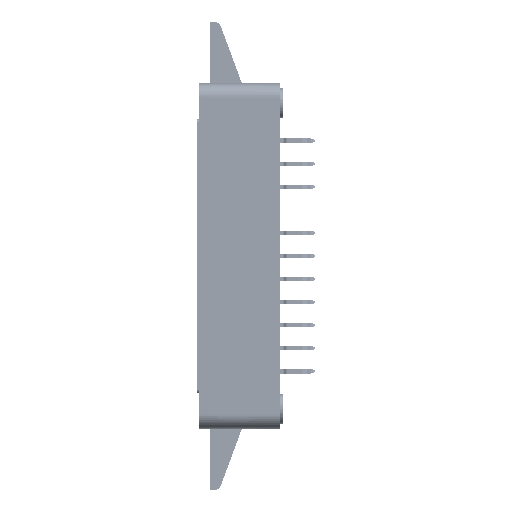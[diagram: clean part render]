
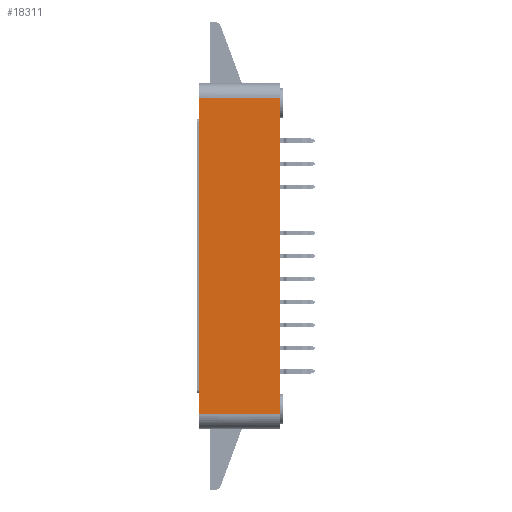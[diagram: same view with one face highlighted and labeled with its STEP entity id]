
A CAD part, front view. The second image highlights one B-rep face of the part: STEP entity #18311.
In plain terms, the highlighted planar face has unit normal (0, -1, 0).
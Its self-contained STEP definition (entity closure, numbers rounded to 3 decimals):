
#1434 = CARTESIAN_POINT ( 'NONE',  ( 0., -26.1, -22. ) ) ;
#2032 = DIRECTION ( 'NONE',  ( -1., 0., 0. ) ) ;
#2460 = LINE ( 'NONE', #28888, #63570 ) ;
#2685 = LINE ( 'NONE', #48256, #83094 ) ;
#4649 = LINE ( 'NONE', #5491, #26586 ) ;
#5491 = CARTESIAN_POINT ( 'NONE',  ( 11.2, -26.1, 21.804 ) ) ;
#6047 = CARTESIAN_POINT ( 'NONE',  ( 11.2, -26.1, 22. ) ) ;
#13199 = EDGE_CURVE ( 'NONE', #16922, #57821, #44464, .T. ) ;
#13540 = DIRECTION ( 'NONE',  ( 0., 0., -1. ) ) ;
#16750 = DIRECTION ( 'NONE',  ( -1., 0., 0. ) ) ;
#16908 = VERTEX_POINT ( 'NONE', #77467 ) ;
#16922 = VERTEX_POINT ( 'NONE', #38847 ) ;
#18311 = ADVANCED_FACE ( 'NONE', ( #77713 ), #71292, .T. ) ;
#26586 = VECTOR ( 'NONE', #49851, 1000. ) ;
#28888 = CARTESIAN_POINT ( 'NONE',  ( 0., -26.1, 22. ) ) ;
#35052 = EDGE_CURVE ( 'NONE', #16908, #56309, #4649, .T. ) ;
#35254 = EDGE_CURVE ( 'NONE', #56309, #16922, #2460, .T. ) ;
#38847 = CARTESIAN_POINT ( 'NONE',  ( 0., -26.1, 22. ) ) ;
#40344 = CARTESIAN_POINT ( 'NONE',  ( 0., -26.1, 21.804 ) ) ;
#42854 = VECTOR ( 'NONE', #76662, 1000. ) ;
#44464 = LINE ( 'NONE', #50500, #42854 ) ;
#48256 = CARTESIAN_POINT ( 'NONE',  ( 5.6, -26.1, -22. ) ) ;
#49851 = DIRECTION ( 'NONE',  ( 0., 0., 1. ) ) ;
#50500 = CARTESIAN_POINT ( 'NONE',  ( 0., -26.1, 0. ) ) ;
#56309 = VERTEX_POINT ( 'NONE', #6047 ) ;
#57821 = VERTEX_POINT ( 'NONE', #1434 ) ;
#57906 = ORIENTED_EDGE ( 'NONE', *, *, #13199, .T. ) ;
#59581 = EDGE_LOOP ( 'NONE', ( #57906, #75474, #82880, #79701 ) ) ;
#63570 = VECTOR ( 'NONE', #2032, 1000. ) ;
#64844 = DIRECTION ( 'NONE',  ( 0., -1., 0. ) ) ;
#65486 = AXIS2_PLACEMENT_3D ( 'NONE', #40344, #64844, #13540 ) ;
#71292 = PLANE ( 'NONE',  #65486 ) ;
#75474 = ORIENTED_EDGE ( 'NONE', *, *, #80951, .F. ) ;
#76662 = DIRECTION ( 'NONE',  ( 0., 0., -1. ) ) ;
#77467 = CARTESIAN_POINT ( 'NONE',  ( 11.2, -26.1, -22. ) ) ;
#77713 = FACE_OUTER_BOUND ( 'NONE', #59581, .T. ) ;
#79701 = ORIENTED_EDGE ( 'NONE', *, *, #35254, .T. ) ;
#80951 = EDGE_CURVE ( 'NONE', #16908, #57821, #2685, .T. ) ;
#82880 = ORIENTED_EDGE ( 'NONE', *, *, #35052, .T. ) ;
#83094 = VECTOR ( 'NONE', #16750, 1000. ) ;
